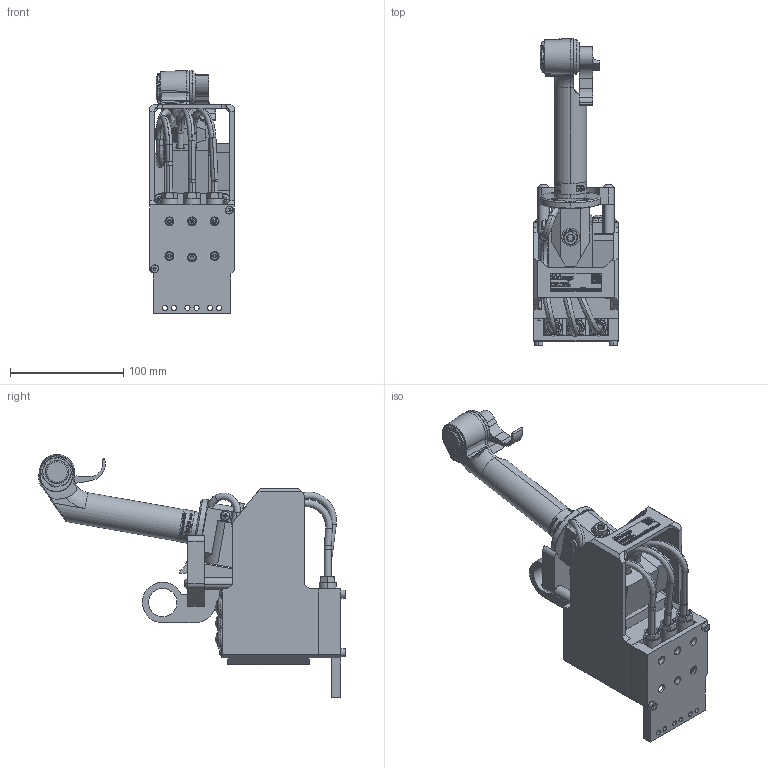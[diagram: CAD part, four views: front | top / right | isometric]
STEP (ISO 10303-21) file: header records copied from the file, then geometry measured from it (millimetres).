
FILE_DESCRIPTION (( 'STEP AP203' ), '1' );
FILE_NAME ('S-1280.STEP', '2018-05-28T07:17:47', ( '' ), ( '' ), 'SwSTEP 2.0', 'SolidWorks 2018', '' );
FILE_SCHEMA (( 'CONFIG_CONTROL_DESIGN' ));
Length unit declared in the file: millimetre
Products named in the file (1): S-1280
Bounding box: 75 x 271.44 x 214.97 mm (x, y, z)
Volume: 896950 mm3; surface area: 222946.9 mm2
Topology: 9 solids, 44 shells, 3161 faces, 10124 edges, 7454 vertices
Faces by surface type: plane 1828, cylinder 732, torus 276, cone 265, sphere 48, bspline 12
Entity records: 121809 total; most frequent: CARTESIAN_POINT 32088, ORIENTED_EDGE 20088, DIRECTION 16955, EDGE_CURVE 10044, VERTEX_POINT 7454, AXIS2_PLACEMENT_3D 5695, LINE 5565, VECTOR 5565
